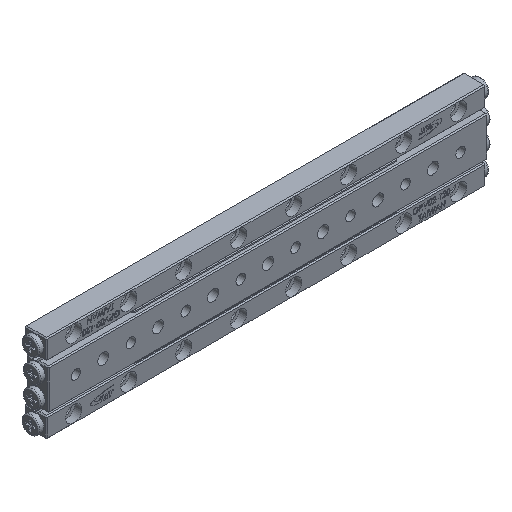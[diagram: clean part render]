
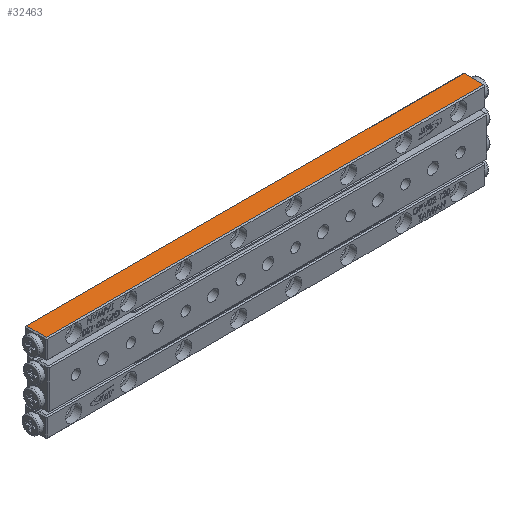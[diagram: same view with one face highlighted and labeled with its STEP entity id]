
A CAD part, isometric view. The second image highlights one B-rep face of the part: STEP entity #32463.
In plain terms, the highlighted planar face has unit normal (0, 0, 1) as drawn and (0, 0, -1) by its records, which use the part's own axes.
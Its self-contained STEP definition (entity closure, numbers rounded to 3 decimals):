
#161 = FACE_OUTER_BOUND ( 'NONE', #43989, .T. ) ;
#1531 = VERTEX_POINT ( 'NONE', #26456 ) ;
#1840 = DIRECTION ( 'NONE',  ( 1., 0., 0. ) ) ;
#2082 = CARTESIAN_POINT ( 'NONE',  ( 59.7, 3., 0. ) ) ;
#3393 = DIRECTION ( 'NONE',  ( 0., 1., 0. ) ) ;
#3839 = PLANE ( 'NONE',  #11319 ) ;
#7900 = CARTESIAN_POINT ( 'NONE',  ( -59.7, -2.7, 0. ) ) ;
#10835 = DIRECTION ( 'NONE',  ( -1., 0., 0. ) ) ;
#11319 = AXIS2_PLACEMENT_3D ( 'NONE', #39717, #43175, #39478 ) ;
#11606 = DIRECTION ( 'NONE',  ( 0., -1., 0. ) ) ;
#13851 = EDGE_CURVE ( 'NONE', #44423, #28818, #20996, .T. ) ;
#17817 = EDGE_CURVE ( 'NONE', #28818, #1531, #30283, .T. ) ;
#20996 = LINE ( 'NONE', #39257, #29972 ) ;
#21727 = LINE ( 'NONE', #28206, #34647 ) ;
#26456 = CARTESIAN_POINT ( 'NONE',  ( 59.7, 2.7, 0. ) ) ;
#26470 = ORIENTED_EDGE ( 'NONE', *, *, #17817, .T. ) ;
#27209 = ORIENTED_EDGE ( 'NONE', *, *, #13851, .T. ) ;
#28206 = CARTESIAN_POINT ( 'NONE',  ( 60., -2.7, 0. ) ) ;
#28818 = VERTEX_POINT ( 'NONE', #29491 ) ;
#29491 = CARTESIAN_POINT ( 'NONE',  ( -59.7, 2.7, 0. ) ) ;
#29972 = VECTOR ( 'NONE', #3393, 1000. ) ;
#30283 = LINE ( 'NONE', #43947, #41726 ) ;
#31454 = VERTEX_POINT ( 'NONE', #44085 ) ;
#32463 = ADVANCED_FACE ( 'NONE', ( #161 ), #3839, .F. ) ;
#34647 = VECTOR ( 'NONE', #10835, 1000. ) ;
#36570 = LINE ( 'NONE', #2082, #44242 ) ;
#39257 = CARTESIAN_POINT ( 'NONE',  ( -59.7, 3., 0. ) ) ;
#39478 = DIRECTION ( 'NONE',  ( 0., -1., 0. ) ) ;
#39717 = CARTESIAN_POINT ( 'NONE',  ( 60., 3., 0. ) ) ;
#40530 = ORIENTED_EDGE ( 'NONE', *, *, #41782, .T. ) ;
#41726 = VECTOR ( 'NONE', #1840, 1000. ) ;
#41782 = EDGE_CURVE ( 'NONE', #1531, #31454, #36570, .T. ) ;
#42072 = EDGE_CURVE ( 'NONE', #31454, #44423, #21727, .T. ) ;
#43175 = DIRECTION ( 'NONE',  ( 0., 0., 1. ) ) ;
#43947 = CARTESIAN_POINT ( 'NONE',  ( 60., 2.7, 0. ) ) ;
#43989 = EDGE_LOOP ( 'NONE', ( #40530, #44318, #27209, #26470 ) ) ;
#44085 = CARTESIAN_POINT ( 'NONE',  ( 59.7, -2.7, 0. ) ) ;
#44242 = VECTOR ( 'NONE', #11606, 1000. ) ;
#44318 = ORIENTED_EDGE ( 'NONE', *, *, #42072, .T. ) ;
#44423 = VERTEX_POINT ( 'NONE', #7900 ) ;
